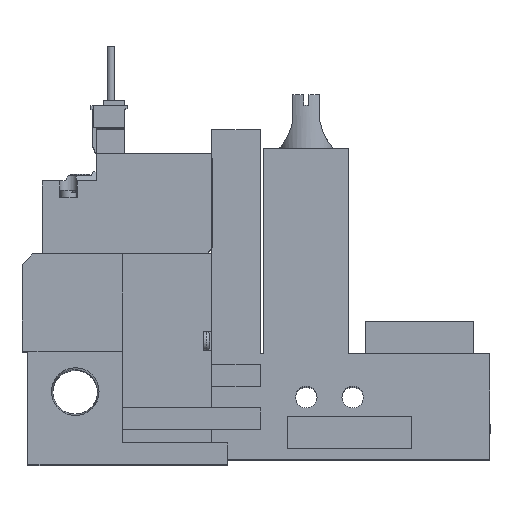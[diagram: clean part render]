
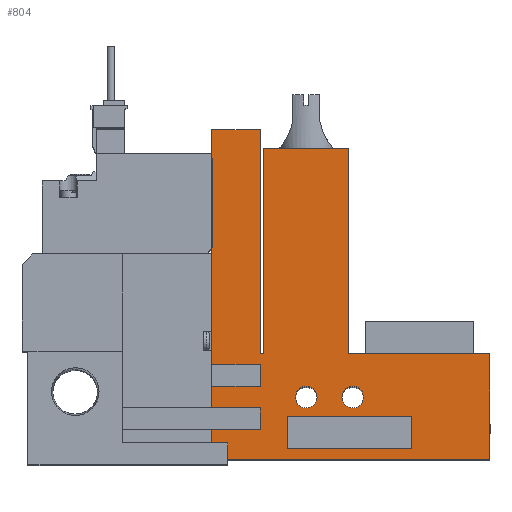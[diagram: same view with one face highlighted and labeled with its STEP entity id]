
A CAD part, top view. The second image highlights one B-rep face of the part: STEP entity #804.
In plain terms, the highlighted planar face has unit normal (0, 0, 1).
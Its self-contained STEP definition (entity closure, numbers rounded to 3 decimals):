
#804=ADVANCED_FACE('',(#1577,#1578,#1579,#1580),#1581,.T.);
#1577=FACE_OUTER_BOUND('',#2591,.T.);
#1578=FACE_BOUND('',#2592,.T.);
#1579=FACE_BOUND('',#2593,.T.);
#1580=FACE_BOUND('',#2594,.T.);
#1581=PLANE('',#2595);
#2591=EDGE_LOOP('',(#5412,#5413,#5414,#5415,#5416,#5417,#5418,#5419,#5420,#5421,#5422,#5423,#5424,#5425,#5426,#5427,#5428,#5429));
#2592=EDGE_LOOP('',(#5430,#5431,#5432,#5433));
#2593=EDGE_LOOP('',(#5434));
#2594=EDGE_LOOP('',(#5435));
#2595=AXIS2_PLACEMENT_3D('',#5436,#5437,#5438);
#5412=ORIENTED_EDGE('',*,*,#7092,.T.);
#5413=ORIENTED_EDGE('',*,*,#6948,.T.);
#5414=ORIENTED_EDGE('',*,*,#7125,.T.);
#5415=ORIENTED_EDGE('',*,*,#7128,.T.);
#5416=ORIENTED_EDGE('',*,*,#7030,.T.);
#5417=ORIENTED_EDGE('',*,*,#7141,.T.);
#5418=ORIENTED_EDGE('',*,*,#7041,.T.);
#5419=ORIENTED_EDGE('',*,*,#7142,.T.);
#5420=ORIENTED_EDGE('',*,*,#7095,.T.);
#5421=ORIENTED_EDGE('',*,*,#7049,.T.);
#5422=ORIENTED_EDGE('',*,*,#6996,.T.);
#5423=ORIENTED_EDGE('',*,*,#7101,.T.);
#5424=ORIENTED_EDGE('',*,*,#6992,.T.);
#5425=ORIENTED_EDGE('',*,*,#7099,.T.);
#5426=ORIENTED_EDGE('',*,*,#7010,.T.);
#5427=ORIENTED_EDGE('',*,*,#7143,.T.);
#5428=ORIENTED_EDGE('',*,*,#6962,.T.);
#5429=ORIENTED_EDGE('',*,*,#7113,.T.);
#5430=ORIENTED_EDGE('',*,*,#7134,.T.);
#5431=ORIENTED_EDGE('',*,*,#7074,.T.);
#5432=ORIENTED_EDGE('',*,*,#6943,.T.);
#5433=ORIENTED_EDGE('',*,*,#7144,.T.);
#5434=ORIENTED_EDGE('',*,*,#7132,.T.);
#5435=ORIENTED_EDGE('',*,*,#6972,.T.);
#5436=CARTESIAN_POINT('',(0.0,0.0,10.0));
#5437=DIRECTION('',(0.0,0.0,1.0));
#5438=DIRECTION('',(1.0,0.0,0.0));
#6943=EDGE_CURVE('',#8392,#8394,#8396,.T.);
#6948=EDGE_CURVE('',#8397,#8404,#8406,.T.);
#6962=EDGE_CURVE('',#8433,#8431,#8434,.T.);
#6972=EDGE_CURVE('',#8451,#8451,#8452,.T.);
#6992=EDGE_CURVE('',#8489,#8487,#8490,.T.);
#6996=EDGE_CURVE('',#8497,#8495,#8498,.T.);
#7010=EDGE_CURVE('',#8524,#8522,#8525,.T.);
#7030=EDGE_CURVE('',#8560,#8558,#8561,.T.);
#7041=EDGE_CURVE('',#8574,#8576,#8578,.T.);
#7049=EDGE_CURVE('',#8590,#8497,#8591,.T.);
#7074=EDGE_CURVE('',#8630,#8392,#8632,.T.);
#7092=EDGE_CURVE('',#8663,#8397,#8664,.T.);
#7095=EDGE_CURVE('',#8666,#8590,#8668,.T.);
#7099=EDGE_CURVE('',#8487,#8524,#8673,.T.);
#7101=EDGE_CURVE('',#8495,#8489,#8675,.T.);
#7113=EDGE_CURVE('',#8431,#8663,#8689,.T.);
#7125=EDGE_CURVE('',#8404,#8704,#8706,.T.);
#7128=EDGE_CURVE('',#8704,#8560,#8709,.T.);
#7132=EDGE_CURVE('',#8714,#8714,#8715,.T.);
#7134=EDGE_CURVE('',#8716,#8630,#8718,.T.);
#7141=EDGE_CURVE('',#8558,#8574,#8726,.T.);
#7142=EDGE_CURVE('',#8576,#8666,#8727,.T.);
#7143=EDGE_CURVE('',#8522,#8433,#8728,.T.);
#7144=EDGE_CURVE('',#8394,#8716,#8729,.T.);
#8392=VERTEX_POINT('',#10747);
#8394=VERTEX_POINT('',#10750);
#8396=LINE('',#10753,#10754);
#8397=VERTEX_POINT('',#10755);
#8404=VERTEX_POINT('',#10765);
#8406=LINE('',#10768,#10769);
#8431=VERTEX_POINT('',#10804);
#8433=VERTEX_POINT('',#10807);
#8434=LINE('',#10808,#10809);
#8451=VERTEX_POINT('',#10834);
#8452=CIRCLE('',#10835,2.0);
#8487=VERTEX_POINT('',#10903);
#8489=VERTEX_POINT('',#10906);
#8490=LINE('',#10907,#10908);
#8495=VERTEX_POINT('',#10915);
#8497=VERTEX_POINT('',#10918);
#8498=LINE('',#10919,#10920);
#8522=VERTEX_POINT('',#10955);
#8524=VERTEX_POINT('',#10958);
#8525=LINE('',#10959,#10960);
#8558=VERTEX_POINT('',#11007);
#8560=VERTEX_POINT('',#11010);
#8561=LINE('',#11011,#11012);
#8574=VERTEX_POINT('',#11033);
#8576=VERTEX_POINT('',#11036);
#8578=LINE('',#11039,#11040);
#8590=VERTEX_POINT('',#11059);
#8591=LINE('',#11060,#11061);
#8630=VERTEX_POINT('',#11122);
#8632=LINE('',#11125,#11126);
#8663=VERTEX_POINT('',#11174);
#8664=LINE('',#11175,#11176);
#8666=VERTEX_POINT('',#11179);
#8668=LINE('',#11182,#11183);
#8673=LINE('',#11190,#11191);
#8675=LINE('',#11194,#11195);
#8689=LINE('',#11219,#11220);
#8704=VERTEX_POINT('',#11240);
#8706=LINE('',#11243,#11244);
#8709=LINE('',#11249,#11250);
#8714=VERTEX_POINT('',#11258);
#8715=CIRCLE('',#11259,2.0);
#8716=VERTEX_POINT('',#11260);
#8718=LINE('',#11263,#11264);
#8726=LINE('',#11278,#11279);
#8727=LINE('',#11280,#11281);
#8728=LINE('',#11282,#11283);
#8729=LINE('',#11284,#11285);
#10747=CARTESIAN_POINT('',(72.1,8.0,10.0));
#10750=CARTESIAN_POINT('',(72.1,2.0,10.0));
#10753=CARTESIAN_POINT('',(72.1,0.0,10.0));
#10754=VECTOR('',#12793,1.0);
#10755=CARTESIAN_POINT('',(35.1,17.5,10.0));
#10765=CARTESIAN_POINT('',(44.1,17.5,10.0));
#10768=CARTESIAN_POINT('',(0.0,17.5,10.0));
#10769=VECTOR('',#12798,1.0);
#10804=CARTESIAN_POINT('',(44.1,61.0,10.0));
#10807=CARTESIAN_POINT('',(44.1,19.5,10.0));
#10808=CARTESIAN_POINT('',(44.1,19.5,10.0));
#10809=VECTOR('',#12816,1.0);
#10834=CARTESIAN_POINT('',(63.2,11.5,10.0));
#10835=AXIS2_PLACEMENT_3D('',#12828,#12829,#12830);
#10903=CARTESIAN_POINT('',(60.45,57.5,10.0));
#10906=CARTESIAN_POINT('',(60.45,19.5,10.0));
#10907=CARTESIAN_POINT('',(60.45,19.5,10.0));
#10908=VECTOR('',#12863,1.0);
#10915=CARTESIAN_POINT('',(86.6,19.5,10.0));
#10918=CARTESIAN_POINT('',(86.6,0.0,10.0));
#10919=CARTESIAN_POINT('',(86.6,0.0,10.0));
#10920=VECTOR('',#12867,1.0);
#10955=CARTESIAN_POINT('',(44.75,19.5,10.0));
#10958=CARTESIAN_POINT('',(44.75,57.5,10.0));
#10959=CARTESIAN_POINT('',(44.75,57.5,10.0));
#10960=VECTOR('',#12883,1.0);
#11007=CARTESIAN_POINT('',(35.1,9.5,10.0));
#11010=CARTESIAN_POINT('',(35.1,13.5,10.0));
#11011=CARTESIAN_POINT('',(35.1,0.0,10.0));
#11012=VECTOR('',#12911,1.0);
#11033=CARTESIAN_POINT('',(44.1,9.5,10.0));
#11036=CARTESIAN_POINT('',(44.1,5.5,10.0));
#11039=CARTESIAN_POINT('',(44.1,0.0,10.0));
#11040=VECTOR('',#12922,1.0);
#11059=CARTESIAN_POINT('',(35.1,0.0,10.0));
#11060=CARTESIAN_POINT('',(18.6,0.0,10.0));
#11061=VECTOR('',#12930,1.0);
#11122=CARTESIAN_POINT('',(49.1,8.0,10.0));
#11125=CARTESIAN_POINT('',(0.0,8.0,10.0));
#11126=VECTOR('',#12957,1.0);
#11174=CARTESIAN_POINT('',(35.1,61.0,10.0));
#11175=CARTESIAN_POINT('',(35.1,61.0,10.0));
#11176=VECTOR('',#12975,1.0);
#11179=CARTESIAN_POINT('',(35.1,5.5,10.0));
#11182=CARTESIAN_POINT('',(35.1,0.0,10.0));
#11183=VECTOR('',#12978,1.0);
#11190=CARTESIAN_POINT('',(60.45,57.5,10.0));
#11191=VECTOR('',#12984,1.0);
#11194=CARTESIAN_POINT('',(86.6,19.5,10.0));
#11195=VECTOR('',#12986,1.0);
#11219=CARTESIAN_POINT('',(44.1,61.0,10.0));
#11220=VECTOR('',#13000,1.0);
#11240=CARTESIAN_POINT('',(44.1,13.5,10.0));
#11243=CARTESIAN_POINT('',(44.1,0.0,10.0));
#11244=VECTOR('',#13019,1.0);
#11249=CARTESIAN_POINT('',(0.0,13.5,10.0));
#11250=VECTOR('',#13022,1.0);
#11258=CARTESIAN_POINT('',(54.6,11.5,10.0));
#11259=AXIS2_PLACEMENT_3D('',#13026,#13027,#13028);
#11260=CARTESIAN_POINT('',(49.1,2.0,10.0));
#11263=CARTESIAN_POINT('',(49.1,0.0,10.0));
#11264=VECTOR('',#13030,1.0);
#11278=CARTESIAN_POINT('',(0.0,9.5,10.0));
#11279=VECTOR('',#13037,1.0);
#11280=CARTESIAN_POINT('',(0.0,5.5,10.0));
#11281=VECTOR('',#13038,1.0);
#11282=CARTESIAN_POINT('',(44.75,19.5,10.0));
#11283=VECTOR('',#13039,1.0);
#11284=CARTESIAN_POINT('',(0.0,2.0,10.0));
#11285=VECTOR('',#13040,1.0);
#12793=DIRECTION('',(0.0,-1.0,0.0));
#12798=DIRECTION('',(1.0,0.0,0.0));
#12816=DIRECTION('',(0.0,1.0,0.0));
#12828=CARTESIAN_POINT('',(61.2,11.5,10.0));
#12829=DIRECTION('',(0.0,0.0,-1.0));
#12830=DIRECTION('',(1.0,0.0,0.0));
#12863=DIRECTION('',(0.0,1.0,0.0));
#12867=DIRECTION('',(0.0,1.0,0.0));
#12883=DIRECTION('',(0.0,-1.0,0.0));
#12911=DIRECTION('',(0.0,-1.0,0.0));
#12922=DIRECTION('',(0.0,-1.0,0.0));
#12930=DIRECTION('',(1.0,0.0,0.0));
#12957=DIRECTION('',(1.0,0.0,0.0));
#12975=DIRECTION('',(0.0,-1.0,0.0));
#12978=DIRECTION('',(0.0,-1.0,0.0));
#12984=DIRECTION('',(-1.0,0.0,0.0));
#12986=DIRECTION('',(-1.0,0.0,0.0));
#13000=DIRECTION('',(-1.0,0.0,0.0));
#13019=DIRECTION('',(0.0,-1.0,0.0));
#13022=DIRECTION('',(-1.0,0.0,0.0));
#13026=CARTESIAN_POINT('',(52.6,11.5,10.0));
#13027=DIRECTION('',(0.0,0.0,-1.0));
#13028=DIRECTION('',(1.0,0.0,0.0));
#13030=DIRECTION('',(0.0,1.0,0.0));
#13037=DIRECTION('',(1.0,0.0,0.0));
#13038=DIRECTION('',(-1.0,0.0,0.0));
#13039=DIRECTION('',(-1.0,0.0,0.0));
#13040=DIRECTION('',(-1.0,0.0,0.0));
